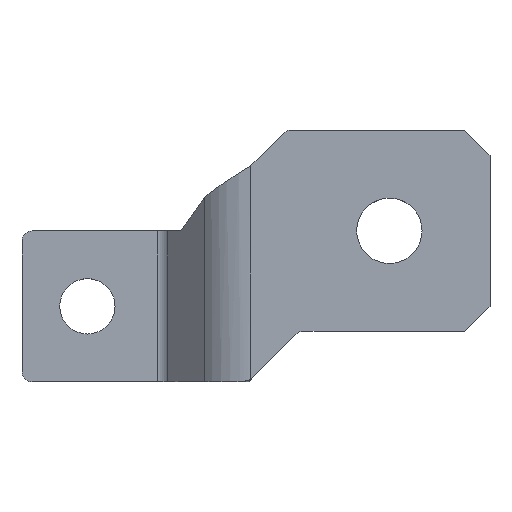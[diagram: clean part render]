
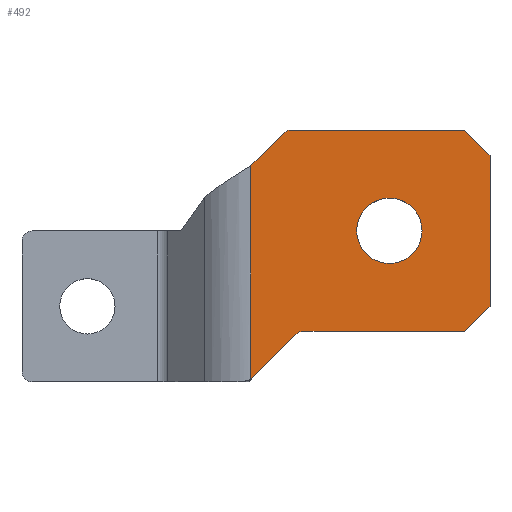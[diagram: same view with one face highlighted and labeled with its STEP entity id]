
A CAD part, top view. The second image highlights one B-rep face of the part: STEP entity #492.
In plain terms, the highlighted planar face has unit normal (0, 0, 1).
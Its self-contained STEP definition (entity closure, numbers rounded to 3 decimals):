
#3 = ORIENTED_EDGE ( 'NONE', *, *, #228, .T. ) ;
#16 = CARTESIAN_POINT ( 'NONE',  ( 55.828, 10., 22. ) ) ;
#26 = DIRECTION ( 'NONE',  ( -1., 0., 0. ) ) ;
#30 = VECTOR ( 'NONE', #420, 1000. ) ;
#42 = EDGE_CURVE ( 'NONE', #588, #1179, #164, .T. ) ;
#51 = VERTEX_POINT ( 'NONE', #482 ) ;
#65 = CARTESIAN_POINT ( 'NONE',  ( 53.402, 48., 22. ) ) ;
#67 = DIRECTION ( 'NONE',  ( -0.707, 0.707, 0. ) ) ;
#108 = ORIENTED_EDGE ( 'NONE', *, *, #526, .F. ) ;
#122 = VERTEX_POINT ( 'NONE', #564 ) ;
#138 = ORIENTED_EDGE ( 'NONE', *, *, #42, .T. ) ;
#140 = VERTEX_POINT ( 'NONE', #16 ) ;
#153 = DIRECTION ( 'NONE',  ( 0., 0., 1. ) ) ;
#158 = DIRECTION ( 'NONE',  ( 0., 0., 1. ) ) ;
#164 = LINE ( 'NONE', #527, #656 ) ;
#167 = CARTESIAN_POINT ( 'NONE',  ( 73., 30., 22. ) ) ;
#169 = DIRECTION ( 'NONE',  ( 0., 1., 0. ) ) ;
#170 = EDGE_CURVE ( 'NONE', #777, #122, #1033, .T. ) ;
#175 = VECTOR ( 'NONE', #26, 1000. ) ;
#183 = AXIS2_PLACEMENT_3D ( 'NONE', #297, #581, #208 ) ;
#187 = VECTOR ( 'NONE', #832, 1000. ) ;
#208 = DIRECTION ( 'NONE',  ( 1., 0., 0. ) ) ;
#228 = EDGE_CURVE ( 'NONE', #370, #140, #1114, .T. ) ;
#242 = CARTESIAN_POINT ( 'NONE',  ( 88., 10., 22. ) ) ;
#253 = CARTESIAN_POINT ( 'NONE',  ( 108.718, 10., 22. ) ) ;
#259 = PLANE ( 'NONE',  #1146 ) ;
#261 = DIRECTION ( 'NONE',  ( 0., 0., 1. ) ) ;
#287 = CARTESIAN_POINT ( 'NONE',  ( 52.574, 50., 22. ) ) ;
#297 = CARTESIAN_POINT ( 'NONE',  ( 73., 30., 22. ) ) ;
#308 = ORIENTED_EDGE ( 'NONE', *, *, #1140, .T. ) ;
#316 = CARTESIAN_POINT ( 'NONE',  ( 46.074, 43.5, 22. ) ) ;
#329 = CARTESIAN_POINT ( 'NONE',  ( 54.414, 9.414, 22. ) ) ;
#367 = VERTEX_POINT ( 'NONE', #982 ) ;
#370 = VERTEX_POINT ( 'NONE', #329 ) ;
#372 = EDGE_CURVE ( 'NONE', #886, #370, #1002, .T. ) ;
#394 = CARTESIAN_POINT ( 'NONE',  ( 93., 45., 22. ) ) ;
#407 = EDGE_CURVE ( 'NONE', #432, #51, #683, .T. ) ;
#419 = VERTEX_POINT ( 'NONE', #242 ) ;
#420 = DIRECTION ( 'NONE',  ( -0.707, -0.707, 0. ) ) ;
#427 = LINE ( 'NONE', #462, #713 ) ;
#432 = VERTEX_POINT ( 'NONE', #981 ) ;
#444 = DIRECTION ( 'NONE',  ( 1., 0., 0. ) ) ;
#462 = CARTESIAN_POINT ( 'NONE',  ( 90.5, 12.5, 22. ) ) ;
#482 = CARTESIAN_POINT ( 'NONE',  ( 51.988, 49.414, 22. ) ) ;
#490 = AXIS2_PLACEMENT_3D ( 'NONE', #167, #158, #444 ) ;
#492 = ADVANCED_FACE ( 'NONE', ( #856, #915 ), #259, .T. ) ;
#498 = DIRECTION ( 'NONE',  ( 1., 0., 0. ) ) ;
#499 = ORIENTED_EDGE ( 'NONE', *, *, #997, .T. ) ;
#501 = ORIENTED_EDGE ( 'NONE', *, *, #372, .T. ) ;
#526 = EDGE_CURVE ( 'NONE', #367, #933, #1013, .T. ) ;
#527 = CARTESIAN_POINT ( 'NONE',  ( 110.5, 27.5, 22. ) ) ;
#546 = CARTESIAN_POINT ( 'NONE',  ( 44.172, 2., 22. ) ) ;
#551 = CARTESIAN_POINT ( 'NONE',  ( 45.486, 42.912, 22. ) ) ;
#552 = DIRECTION ( 'NONE',  ( 0.707, 0.707, 0. ) ) ;
#564 = CARTESIAN_POINT ( 'NONE',  ( 79.5, 30., 22. ) ) ;
#566 = EDGE_CURVE ( 'NONE', #1179, #432, #739, .T. ) ;
#581 = DIRECTION ( 'NONE',  ( 0., 0., 1. ) ) ;
#587 = EDGE_LOOP ( 'NONE', ( #108, #499, #501, #3, #846, #308, #793, #138, #747, #1107, #674 ) ) ;
#588 = VERTEX_POINT ( 'NONE', #394 ) ;
#596 = AXIS2_PLACEMENT_3D ( 'NONE', #785, #1056, #498 ) ;
#600 = CARTESIAN_POINT ( 'NONE',  ( 66.5, 30., 22. ) ) ;
#614 = AXIS2_PLACEMENT_3D ( 'NONE', #546, #261, #1097 ) ;
#617 = DIRECTION ( 'NONE',  ( 0.707, 0.707, 0. ) ) ;
#631 = CARTESIAN_POINT ( 'NONE',  ( 45.486, 10., 22. ) ) ;
#656 = VECTOR ( 'NONE', #67, 1000. ) ;
#667 = CIRCLE ( 'NONE', #614, 2. ) ;
#669 = CIRCLE ( 'NONE', #490, 6.5 ) ;
#674 = ORIENTED_EDGE ( 'NONE', *, *, #728, .T. ) ;
#683 = CIRCLE ( 'NONE', #830, 2. ) ;
#697 = LINE ( 'NONE', #934, #187 ) ;
#713 = VECTOR ( 'NONE', #552, 1000. ) ;
#728 = EDGE_CURVE ( 'NONE', #51, #933, #829, .T. ) ;
#729 = VECTOR ( 'NONE', #617, 1000. ) ;
#739 = LINE ( 'NONE', #287, #175 ) ;
#747 = ORIENTED_EDGE ( 'NONE', *, *, #566, .T. ) ;
#774 = VECTOR ( 'NONE', #169, 1000. ) ;
#777 = VERTEX_POINT ( 'NONE', #600 ) ;
#785 = CARTESIAN_POINT ( 'NONE',  ( 55.828, 8., 22. ) ) ;
#793 = ORIENTED_EDGE ( 'NONE', *, *, #993, .T. ) ;
#802 = CARTESIAN_POINT ( 'NONE',  ( 93., 15., 22. ) ) ;
#809 = VERTEX_POINT ( 'NONE', #802 ) ;
#816 = DIRECTION ( 'NONE',  ( 1., 0., 0. ) ) ;
#829 = LINE ( 'NONE', #316, #30 ) ;
#830 = AXIS2_PLACEMENT_3D ( 'NONE', #65, #153, #1064 ) ;
#832 = DIRECTION ( 'NONE',  ( 1., 0., 0. ) ) ;
#846 = ORIENTED_EDGE ( 'NONE', *, *, #1161, .T. ) ;
#856 = FACE_OUTER_BOUND ( 'NONE', #587, .T. ) ;
#881 = LINE ( 'NONE', #992, #1158 ) ;
#886 = VERTEX_POINT ( 'NONE', #894 ) ;
#888 = CARTESIAN_POINT ( 'NONE',  ( 55., 10., 22. ) ) ;
#894 = CARTESIAN_POINT ( 'NONE',  ( 45.586, 0.586, 22. ) ) ;
#915 = FACE_BOUND ( 'NONE', #988, .T. ) ;
#933 = VERTEX_POINT ( 'NONE', #551 ) ;
#934 = CARTESIAN_POINT ( 'NONE',  ( 55., 10., 22. ) ) ;
#968 = EDGE_CURVE ( 'NONE', #122, #777, #669, .T. ) ;
#981 = CARTESIAN_POINT ( 'NONE',  ( 53.402, 50., 22. ) ) ;
#982 = CARTESIAN_POINT ( 'NONE',  ( 45.486, 0.492, 22. ) ) ;
#988 = EDGE_LOOP ( 'NONE', ( #1039, #1136 ) ) ;
#992 = CARTESIAN_POINT ( 'NONE',  ( 93., 50., 22. ) ) ;
#993 = EDGE_CURVE ( 'NONE', #809, #588, #881, .T. ) ;
#997 = EDGE_CURVE ( 'NONE', #367, #886, #667, .T. ) ;
#1001 = DIRECTION ( 'NONE',  ( 0., 0., 1. ) ) ;
#1002 = LINE ( 'NONE', #888, #729 ) ;
#1013 = LINE ( 'NONE', #631, #774 ) ;
#1021 = CARTESIAN_POINT ( 'NONE',  ( 88., 50., 22. ) ) ;
#1033 = CIRCLE ( 'NONE', #183, 6.5 ) ;
#1039 = ORIENTED_EDGE ( 'NONE', *, *, #968, .F. ) ;
#1056 = DIRECTION ( 'NONE',  ( 0., 0., -1. ) ) ;
#1064 = DIRECTION ( 'NONE',  ( 1., 0., 0. ) ) ;
#1097 = DIRECTION ( 'NONE',  ( 1., 0., 0. ) ) ;
#1107 = ORIENTED_EDGE ( 'NONE', *, *, #407, .T. ) ;
#1114 = CIRCLE ( 'NONE', #596, 2. ) ;
#1136 = ORIENTED_EDGE ( 'NONE', *, *, #170, .F. ) ;
#1140 = EDGE_CURVE ( 'NONE', #419, #809, #427, .T. ) ;
#1146 = AXIS2_PLACEMENT_3D ( 'NONE', #253, #1001, #816 ) ;
#1158 = VECTOR ( 'NONE', #1193, 1000. ) ;
#1161 = EDGE_CURVE ( 'NONE', #140, #419, #697, .T. ) ;
#1179 = VERTEX_POINT ( 'NONE', #1021 ) ;
#1193 = DIRECTION ( 'NONE',  ( 0., 1., 0. ) ) ;
